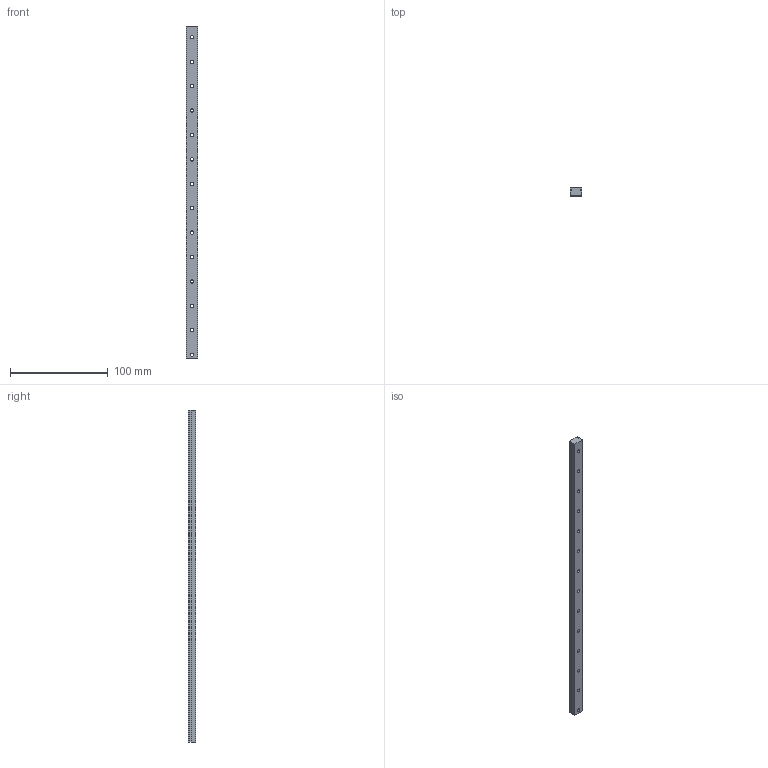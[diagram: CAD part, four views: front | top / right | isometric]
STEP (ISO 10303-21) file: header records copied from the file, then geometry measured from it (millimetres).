
FILE_DESCRIPTION (( 'STEP AP203' ), '1' );
FILE_NAME ('guiding rail euro system mjarfa idea 2.STEP', '2025-10-13T10:21:44', ( '' ), ( '' ), 'SwSTEP 2.0', 'SolidWorks 2023', '' );
FILE_SCHEMA (( 'CONFIG_CONTROL_DESIGN' ));
Length unit declared in the file: millimetre
Products named in the file (1): guiding rail euro system mjarfa idea 2
Bounding box: 11.5 x 7.8 x 340 mm (x, y, z)
Volume: 27334.8 mm3; surface area: 15883.7 mm2
Topology: 1 solids, 1 shells, 84 faces, 204 edges, 136 vertices
Faces by surface type: cylinder 56, plane 28
Entity records: 2653 total; most frequent: DIRECTION 486, CARTESIAN_POINT 425, ORIENTED_EDGE 408, EDGE_CURVE 204, AXIS2_PLACEMENT_3D 197, VERTEX_POINT 136, EDGE_LOOP 126, CIRCLE 112
